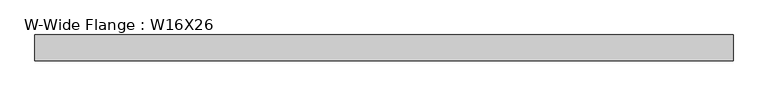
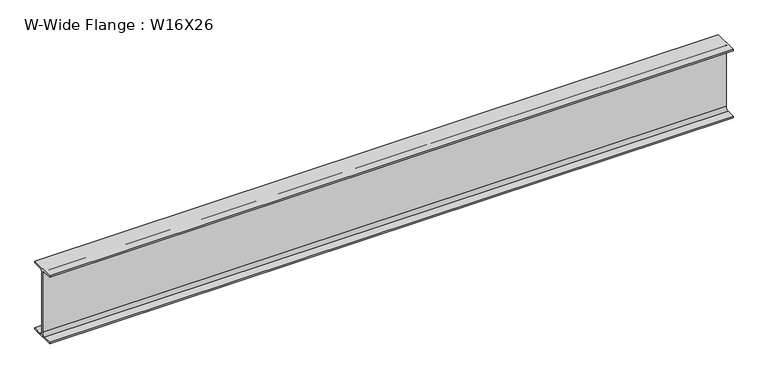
"""IFC4 building model written with IfcOpenShell, lengths in millimetres: beam geometry, W-Wide Flange : W16X26."""

from ifc_helpers import new_model, si_unit, point, frame, frame_2d, origin, place, context, project, spatial, polyline, circle_curve, trimmed, segment, composite_curve, outline, extrude, source, transform, mapped, element, save


def w_wide_flange_w16x26_af4b12ba(model_context):
    return source(origin(), model_context, "Body", "SweptSolid", [
        extrude(outline(composite_curve([segment(polyline([(-69.85, -190.5496094), (-21.43125, -190.5496094)]), True, "CONTINUOUS"), segment(trimmed(circle_curve(frame_2d((-21.43125, -172.2933594)), 18.25625), [point((-21.43125, -190.5496094))], [point((-3.175, -172.2933594))], True, "CARTESIAN"), True, "CONTINUOUS"), segment(polyline([(-3.175, -172.2933594), (-3.175, 172.2933594)]), True, "CONTINUOUS"), segment(trimmed(circle_curve(frame_2d((-21.43125, 172.2933594)), 18.25625), [point((-3.175, 172.2933594))], [point((-21.43125, 190.5496094))], True, "CARTESIAN"), True, "CONTINUOUS"), segment(polyline([(-21.43125, 190.5496094), (-69.85, 190.5496094), (-69.85, 199.2808594), (69.85, 199.2808594), (69.85, 190.5496094), (21.43125, 190.5496094)]), True, "CONTINUOUS"), segment(trimmed(circle_curve(frame_2d((21.43125, 172.2933594)), 18.25625), [point((21.43125, 190.5496094))], [point((3.175, 172.2933594))], True, "CARTESIAN"), True, "CONTINUOUS"), segment(polyline([(3.175, 172.2933594), (3.175, -172.2933594)]), True, "CONTINUOUS"), segment(trimmed(circle_curve(frame_2d((21.43125, -172.2933594)), 18.25625), [point((3.175, -172.2933594))], [point((21.43125, -190.5496094))], True, "CARTESIAN"), True, "CONTINUOUS"), segment(polyline([(21.43125, -190.5496094), (69.85, -190.5496094), (69.85, -199.2808594), (-69.85, -199.2808594), (-69.85, -190.5496094)]), True, "CONTINUOUS")], self_intersect=False)), frame((-1892.3, 0.0, 0.0), z_axis=(1.0, 0.0, 0.0), x_axis=(0.0, 1.0, 0.0)), (0.0, 0.0, 1.0), 3778.3988281),
    ])


if __name__ == "__main__":
    model = new_model("IFC4")
    model_context = context("Model", 3, world=origin())
    ifc_project = project(units=[si_unit("LENGTHUNIT", "METRE", prefix="MILLI")], contexts=[model_context])
    site = spatial("IfcSite", under=ifc_project)
    building = spatial("IfcBuilding", under=site)
    placement = place(None, origin())
    w_wide_flange_w16x26_shape = w_wide_flange_w16x26_af4b12ba(model_context)
    element("IfcBeam", 1, ObjectType="W-Wide Flange : W16X26", at=placement, inside=building, context=model_context, shape_type="MappedRepresentation", body=[
        mapped(w_wide_flange_w16x26_shape, transform((0.0, 0.0, 0.0), x_axis=(1.0, 0.0, 0.0), y_axis=(0.0, 1.0, 0.0), z_axis=(0.0, 0.0, 1.0))),
    ])
    save(model, "model.ifc")
